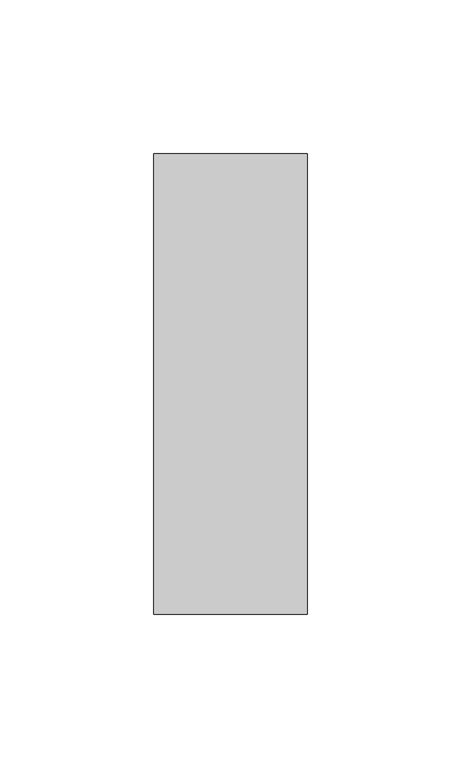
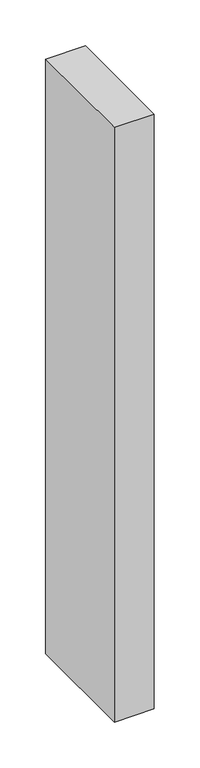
"""IFC4 building model written with IfcOpenShell, lengths in millimetres: member geometry, Прямоугольный импост : 50 x 150 мм."""

from ifc_helpers import new_model, si_unit, frame, origin, place, context, project, spatial, polyline, outline, extrude, source, transform, mapped, element, save


def member_04c89b23(model_context):
    return source(origin(), model_context, "Body", "SweptSolid", [
        extrude(outline(polyline([(25.0, 75.0), (25.0, -75.0), (-25.0, -75.0), (-25.0, 75.0), (25.0, 75.0)])), frame((0.0, 0.0, -791.3641925), z_axis=(0.0, 0.0, 1.0), x_axis=(1.0, 0.0, 0.0)), (0.0, 0.0, 1.0), 791.3641925),
    ])


if __name__ == "__main__":
    model = new_model("IFC4")
    model_context = context("Model", 3, world=origin())
    ifc_project = project(units=[si_unit("LENGTHUNIT", "METRE", prefix="MILLI")], contexts=[model_context])
    site = spatial("IfcSite", under=ifc_project)
    building = spatial("IfcBuilding", under=site)
    placement = place(None, origin())
    member_shape = member_04c89b23(model_context)
    element("IfcMember", 1, ObjectType="Прямоугольный импост : 50 x 150 мм", at=placement, inside=building, context=model_context, shape_type="MappedRepresentation", body=[
        mapped(member_shape, transform((0.0, 0.0, 0.0), x_axis=(1.0, 0.0, 0.0), y_axis=(0.0, 1.0, 0.0), z_axis=(0.0, 0.0, 1.0))),
    ])
    save(model, "model.ifc")
